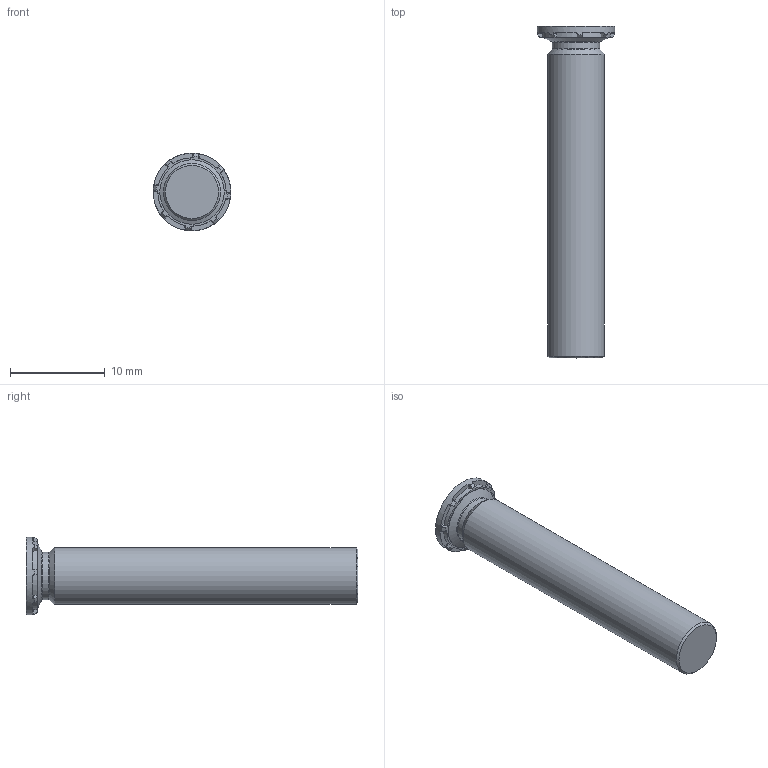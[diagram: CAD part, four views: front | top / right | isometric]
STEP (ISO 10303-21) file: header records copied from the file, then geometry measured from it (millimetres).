
FILE_DESCRIPTION(/* description */ (''),/* implementation_level */ '2;1');
FILE_NAME(/* name */ 'C:\Users\keval.kumar\Desktop\Fastit\Clinch Screw- FH Range\M6\Clinch Screw-FH Range_M6x35.stp',/* time_stamp */ '2024-03-12T12:06:56+06:00',/* author */ ('keval.kumar'),/* organization */ (''),/* preprocessor_version */ 'ST-DEVELOPER v18.1',/* originating_system */ 'Autodesk Inventor 2022',/* authorisation */ '');
FILE_SCHEMA (('AUTOMOTIVE_DESIGN { 1 0 10303 214 3 1 1 }'));
Length unit declared in the file: millimetre
Products named in the file (1): Clinch Screw-FH Range_M6x35
Bounding box: 8.2 x 35 x 8.2 mm (x, y, z)
Volume: 1004.5 mm3; surface area: 774.2 mm2
Topology: 1 solids, 1 shells, 68 faces, 193 edges, 128 vertices
Faces by surface type: plane 43, cylinder 12, cone 11, torus 2
Full cylindrical faces by diameter (mm): 5 x1, 6 x1, 6.8 x1, 8.2 x1
Entity records: 2278 total; most frequent: CARTESIAN_POINT 422, DIRECTION 405, ORIENTED_EDGE 386, EDGE_CURVE 193, AXIS2_PLACEMENT_3D 159, VERTEX_POINT 128, LINE 87, VECTOR 87
